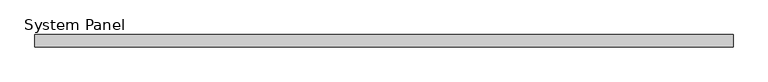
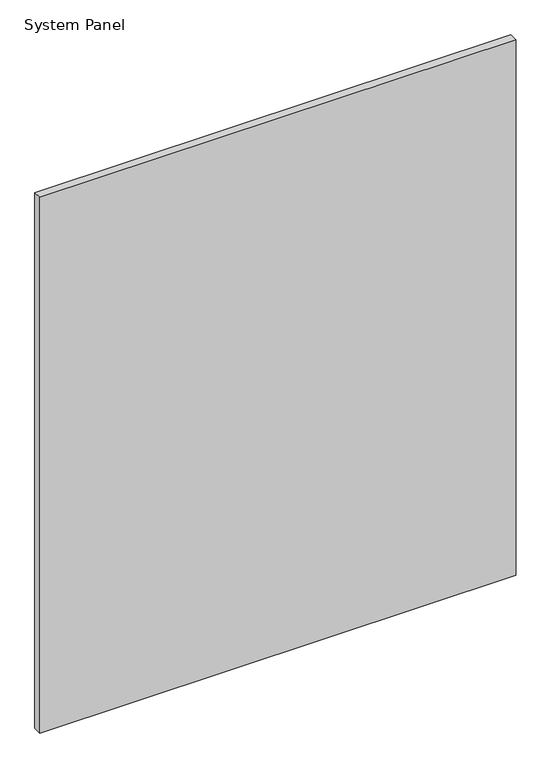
"""IFC4 building model written with IfcOpenShell, lengths in millimetres: plate geometry, System Panel : Panel_Glazed_Generic Showcase_30mm."""

from ifc_helpers import new_model, si_unit, origin, origin_with_axes, place, context, project, spatial, polyline, outline, extrude, source, transform, mapped, element, save


def system_panel_916e9981(model_context):
    return source(origin(), model_context, "Body", "SweptSolid", [
        extrude(outline(polyline([(862.5, -30.0), (-862.5, -30.0), (-862.5, 0.0), (862.5, 0.0), (862.5, -30.0)])), origin_with_axes(), (0.0, 0.0, 1.0), 2050.0),
    ])


if __name__ == "__main__":
    model = new_model("IFC4")
    model_context = context("Model", 3, world=origin())
    ifc_project = project(units=[si_unit("LENGTHUNIT", "METRE", prefix="MILLI")], contexts=[model_context])
    site = spatial("IfcSite", under=ifc_project)
    building = spatial("IfcBuilding", under=site)
    placement = place(None, origin())
    system_panel_shape = system_panel_916e9981(model_context)
    element("IfcPlate", 1, ObjectType="System Panel : Panel_Glazed_Generic Showcase_30mm", at=placement, inside=building, context=model_context, shape_type="MappedRepresentation", body=[
        mapped(system_panel_shape, transform((0.0, 0.0, 0.0), x_axis=(1.0, 0.0, 0.0), y_axis=(0.0, 1.0, 0.0), z_axis=(0.0, 0.0, 1.0))),
    ])
    save(model, "model.ifc")
